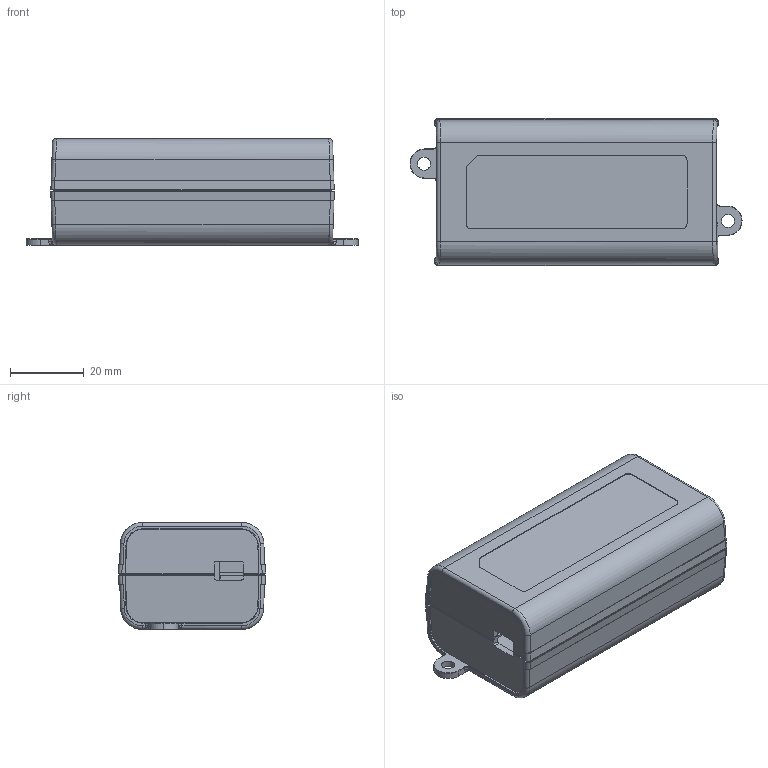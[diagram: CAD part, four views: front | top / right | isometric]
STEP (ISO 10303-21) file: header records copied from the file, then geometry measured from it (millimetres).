
FILE_DESCRIPTION((''),'2;1');
FILE_NAME('APC-12_ASM','2020-06-05T11:55:29',('shalinice'),(''),'CREO PARAMETRIC BY PTC INC, 2016390','CREO PARAMETRIC BY PTC INC, 2016390','');
FILE_SCHEMA(('AUTOMOTIVE_DESIGN { 1 0 10303 214 1 1 1 1 }'));
Length unit declared in the file: millimetre
Products named in the file (3): TOP; BASE; APC-12_ASM
Assembly tree (2 placements, depth 2):
  APC-12_ASM
    TOP
    BASE
Bounding box: 90.11 x 40.12 x 29 mm (x, y, z)
Volume: 22103.1 mm3; surface area: 24149 mm2
Topology: 2 solids, 2 shells, 519 faces, 1411 edges, 916 vertices
Faces by surface type: plane 332, cylinder 135, torus 32, bspline 12, sphere 8
Entity records: 28673 total; most frequent: CARTESIAN_POINT 5205, ORIENTED_EDGE 2806, DIRECTION 2421, PRESENTATION_STYLE_ASSIGNMENT 1921, STYLED_ITEM 1405, CURVE_STYLE 1403, EDGE_CURVE 1403, FILL_AREA_STYLE_COLOUR 1033
